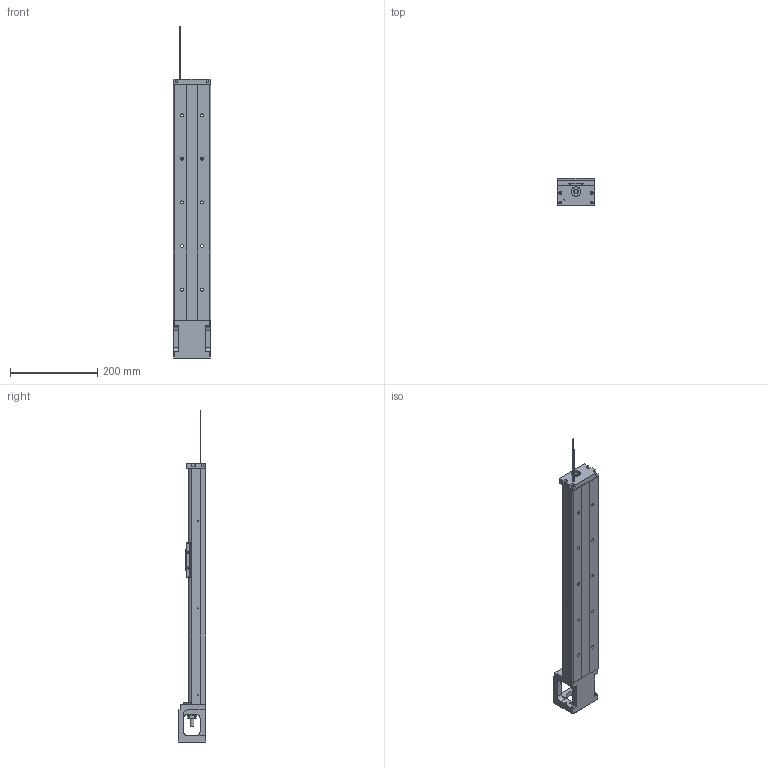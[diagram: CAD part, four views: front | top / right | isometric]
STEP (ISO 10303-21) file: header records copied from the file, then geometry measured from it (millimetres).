
FILE_DESCRIPTION(/* description */ (''),/* implementation_level */ '2;1');
FILE_NAME(/* name */ '46S-540low.stp',/* time_stamp */ '2018-02-12T11:42:57+08:00',/* author */ (''),/* organization */ (''),/* preprocessor_version */ 'ST-DEVELOPER v11',/* originating_system */ 'SIEMENS UGS NX 6.0',/* authorisation */ '');
FILE_SCHEMA (('AUTOMOTIVE_DESIGN { 1 0 10303 214 1 1 1 1 }'));
Length unit declared in the file: millimetre
Products named in the file (1): 3.069
Bounding box: 86 x 64 x 761.89 mm (x, y, z)
Volume: 1288031.7 mm3; surface area: 281023.6 mm2
Topology: 5 solids, 16 shells, 611 faces, 1614 edges, 1066 vertices
Faces by surface type: plane 281, cylinder 220, cone 55, bspline 47, torus 8
Full cylindrical faces by diameter (mm): 2 x2, 2.11 x2, 2.15 x6, 2.42 x6, 3 x4, 3.2 x4, 3.3 x6, 3.4 x8, 4 x2, 4.2 x4, 4.5 x8, 5 x6, 6 x8, 6.35 x2, 6.6 x10, 6.7 x2, 8 x1, 8.7 x4, 9.6 x1, 10 x3, 11 x10, 12 x1, 14.95 x2, 15 x1, 16 x2, 22 x3, 27.5 x1, 44 x1, 50 x1
Entity records: 30789 total; most frequent: CARTESIAN_POINT 12653, ORIENTED_EDGE 2776, DIRECTION 2647, EDGE_CURVE 1388, VERTEX_POINT 998, AXIS2_PLACEMENT_3D 989, EDGE_LOOP 858, LINE 669
